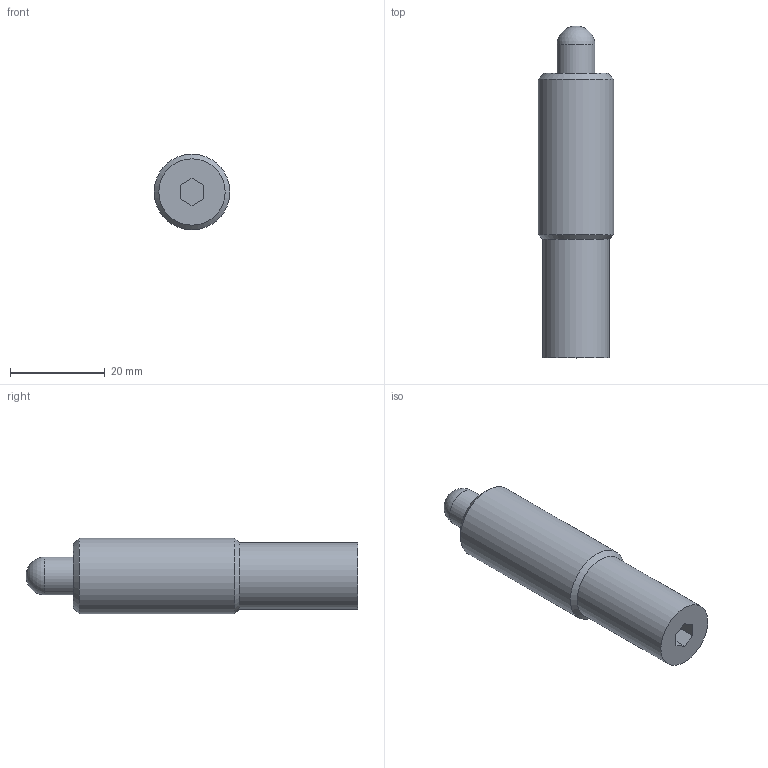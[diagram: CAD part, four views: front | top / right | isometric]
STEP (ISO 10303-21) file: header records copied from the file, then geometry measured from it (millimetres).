
FILE_DESCRIPTION( ( 'STEP AP203' ), '1' );
FILE_NAME( 'p:/temp/worker_6/temp/app_46_0201907041159184574353710e898ce_000000_00_00_000000/format_2/M314-04-006.stp', '2019-07-04T09:59:19', ( '' ), ( '' ), ' ', 'PARTsolutions', ' ' );
FILE_SCHEMA( ( 'CONFIG_CONTROL_DESIGN' ) );
Length unit declared in the file: millimetre
Products named in the file (1): _M314-04-006
Bounding box: 16 x 70 x 16 mm (x, y, z)
Volume: 11153 mm3; surface area: 3479.8 mm2
Topology: 1 solids, 1 shells, 15 faces, 32 edges, 20 vertices
Faces by surface type: plane 9, cylinder 3, cone 2, sphere 1
Full cylindrical faces by diameter (mm): 8 x1, 14 x1, 16 x1
Entity records: 410 total; most frequent: DIRECTION 64, CARTESIAN_POINT 61, ORIENTED_EDGE 50, EDGE_CURVE 25, AXIS2_PLACEMENT_3D 23, EDGE_LOOP 22, VERTEX_POINT 20, FACE_OUTER_BOUND 18
